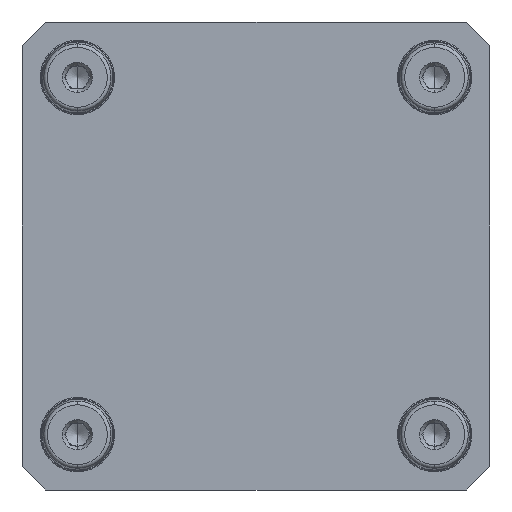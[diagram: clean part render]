
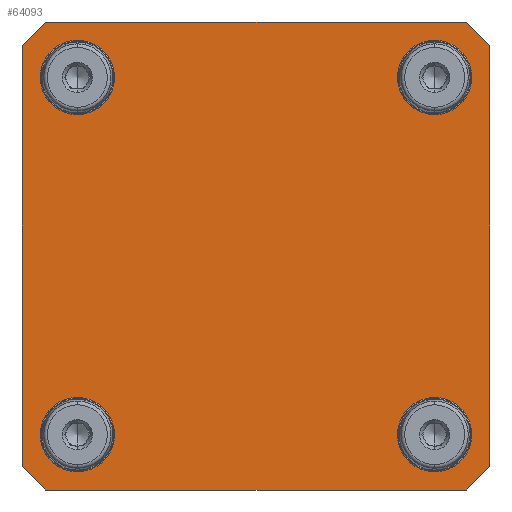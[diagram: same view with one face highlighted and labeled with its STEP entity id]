
A CAD part, front view. The second image highlights one B-rep face of the part: STEP entity #64093.
In plain terms, the highlighted planar face has unit normal (0, -1, 0).
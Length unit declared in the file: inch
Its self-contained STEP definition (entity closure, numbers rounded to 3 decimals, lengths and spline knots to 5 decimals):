
#477 = VERTEX_POINT ( 'NONE', #4337 ) ;
#889 = CARTESIAN_POINT ( 'NONE',  ( -2.225, 0., -2.475 ) ) ;
#1001 = EDGE_LOOP ( 'NONE', ( #98950, #86549 ) ) ;
#1962 = EDGE_LOOP ( 'NONE', ( #91341, #17675 ) ) ;
#2393 = CARTESIAN_POINT ( 'NONE',  ( -2.475, 0., 2.225 ) ) ;
#2726 = VERTEX_POINT ( 'NONE', #18595 ) ;
#2868 = CARTESIAN_POINT ( 'NONE',  ( -1.88976, 0., 2.20511 ) ) ;
#3150 = LINE ( 'NONE', #48556, #38363 ) ;
#4337 = CARTESIAN_POINT ( 'NONE',  ( -2.475, 0., -2.225 ) ) ;
#4861 = VERTEX_POINT ( 'NONE', #77058 ) ;
#6361 = LINE ( 'NONE', #17736, #22054 ) ;
#7712 = CARTESIAN_POINT ( 'NONE',  ( 0., 0., 0. ) ) ;
#8462 = VERTEX_POINT ( 'NONE', #59574 ) ;
#8484 = ORIENTED_EDGE ( 'NONE', *, *, #11106, .T. ) ;
#8759 = LINE ( 'NONE', #39406, #58451 ) ;
#9774 = EDGE_CURVE ( 'NONE', #29738, #20464, #77078, .T. ) ;
#9824 = EDGE_CURVE ( 'NONE', #477, #66586, #101841, .T. ) ;
#10150 = CARTESIAN_POINT ( 'NONE',  ( -2.475, 0., -2.475 ) ) ;
#10501 = DIRECTION ( 'NONE',  ( 0., 0., 1. ) ) ;
#10551 = AXIS2_PLACEMENT_3D ( 'NONE', #48751, #80951, #89313 ) ;
#10581 = ORIENTED_EDGE ( 'NONE', *, *, #88216, .F. ) ;
#11106 = EDGE_CURVE ( 'NONE', #86386, #66586, #8759, .T. ) ;
#12453 = CARTESIAN_POINT ( 'NONE',  ( -2.475, 0., -2.225 ) ) ;
#12910 = CARTESIAN_POINT ( 'NONE',  ( -2.225, 0., 2.475 ) ) ;
#13185 = DIRECTION ( 'NONE',  ( 0.707, 0., -0.707 ) ) ;
#13378 = EDGE_CURVE ( 'NONE', #94059, #18965, #87181, .T. ) ;
#14108 = FACE_OUTER_BOUND ( 'NONE', #96858, .T. ) ;
#14342 = EDGE_CURVE ( 'NONE', #93657, #32014, #26767, .T. ) ;
#15198 = EDGE_CURVE ( 'NONE', #2726, #4861, #3150, .T. ) ;
#15773 = ORIENTED_EDGE ( 'NONE', *, *, #26614, .T. ) ;
#16049 = DIRECTION ( 'NONE',  ( -0.707, 0., -0.707 ) ) ;
#16291 = ORIENTED_EDGE ( 'NONE', *, *, #94848, .F. ) ;
#17170 = DIRECTION ( 'NONE',  ( 0., -1., 0. ) ) ;
#17675 = ORIENTED_EDGE ( 'NONE', *, *, #9774, .F. ) ;
#17736 = CARTESIAN_POINT ( 'NONE',  ( 2.475, 0., -2.475 ) ) ;
#18066 = CARTESIAN_POINT ( 'NONE',  ( -1.88976, 0., 1.88976 ) ) ;
#18595 = CARTESIAN_POINT ( 'NONE',  ( 2.475, 0., 2.225 ) ) ;
#18965 = VERTEX_POINT ( 'NONE', #889 ) ;
#20017 = DIRECTION ( 'NONE',  ( 0., 0., 1. ) ) ;
#20464 = VERTEX_POINT ( 'NONE', #39626 ) ;
#20685 = DIRECTION ( 'NONE',  ( 0., 0., 1. ) ) ;
#21300 = CIRCLE ( 'NONE', #75599, 0.31535 ) ;
#22054 = VECTOR ( 'NONE', #58962, 39.37008 ) ;
#22226 = VERTEX_POINT ( 'NONE', #54936 ) ;
#23291 = AXIS2_PLACEMENT_3D ( 'NONE', #76339, #17170, #68646 ) ;
#23758 = ORIENTED_EDGE ( 'NONE', *, *, #92848, .T. ) ;
#24780 = VECTOR ( 'NONE', #10501, 39.37008 ) ;
#25326 = PLANE ( 'NONE',  #77204 ) ;
#25545 = DIRECTION ( 'NONE',  ( 0., 0., 1. ) ) ;
#26614 = EDGE_CURVE ( 'NONE', #94059, #103241, #86250, .T. ) ;
#26767 = CIRCLE ( 'NONE', #108371, 0.31535 ) ;
#27368 = CIRCLE ( 'NONE', #107503, 0.31535 ) ;
#28714 = ORIENTED_EDGE ( 'NONE', *, *, #9824, .F. ) ;
#29738 = VERTEX_POINT ( 'NONE', #103183 ) ;
#30536 = EDGE_CURVE ( 'NONE', #86386, #4861, #90196, .T. ) ;
#31636 = VECTOR ( 'NONE', #13185, 39.37008 ) ;
#31959 = EDGE_CURVE ( 'NONE', #48353, #8462, #77249, .T. ) ;
#32014 = VERTEX_POINT ( 'NONE', #100681 ) ;
#32713 = CARTESIAN_POINT ( 'NONE',  ( -2.475, 0., 2.475 ) ) ;
#34180 = DIRECTION ( 'NONE',  ( 0., 0., -1. ) ) ;
#34347 = CARTESIAN_POINT ( 'NONE',  ( -2.475, 0., -2.475 ) ) ;
#34928 = VECTOR ( 'NONE', #76700, 39.37008 ) ;
#36322 = FACE_BOUND ( 'NONE', #39223, .T. ) ;
#38363 = VECTOR ( 'NONE', #57653, 39.37008 ) ;
#38924 = FACE_BOUND ( 'NONE', #1001, .T. ) ;
#39223 = EDGE_LOOP ( 'NONE', ( #63156, #40811 ) ) ;
#39406 = CARTESIAN_POINT ( 'NONE',  ( -2.225, 0., 2.475 ) ) ;
#39408 = CARTESIAN_POINT ( 'NONE',  ( 2.225, 0., -2.475 ) ) ;
#39626 = CARTESIAN_POINT ( 'NONE',  ( 1.88976, 0., 1.57441 ) ) ;
#40362 = EDGE_CURVE ( 'NONE', #20464, #29738, #46456, .T. ) ;
#40690 = LINE ( 'NONE', #12453, #31636 ) ;
#40811 = ORIENTED_EDGE ( 'NONE', *, *, #54376, .F. ) ;
#42809 = DIRECTION ( 'NONE',  ( 0., -1., 0. ) ) ;
#43154 = DIRECTION ( 'NONE',  ( 0., 0., -1. ) ) ;
#43598 = CARTESIAN_POINT ( 'NONE',  ( 1.88976, 0., -1.88976 ) ) ;
#44138 = AXIS2_PLACEMENT_3D ( 'NONE', #53861, #88168, #20685 ) ;
#45751 = VERTEX_POINT ( 'NONE', #2868 ) ;
#46267 = AXIS2_PLACEMENT_3D ( 'NONE', #18066, #102719, #59312 ) ;
#46456 = CIRCLE ( 'NONE', #44138, 0.31535 ) ;
#48353 = VERTEX_POINT ( 'NONE', #70634 ) ;
#48556 = CARTESIAN_POINT ( 'NONE',  ( 2.475, 0., 2.225 ) ) ;
#48751 = CARTESIAN_POINT ( 'NONE',  ( 1.88976, 0., -1.88976 ) ) ;
#51815 = AXIS2_PLACEMENT_3D ( 'NONE', #58000, #76637, #25545 ) ;
#53861 = CARTESIAN_POINT ( 'NONE',  ( 1.88976, 0., 1.88976 ) ) ;
#54087 = EDGE_CURVE ( 'NONE', #32014, #93657, #71780, .T. ) ;
#54354 = ORIENTED_EDGE ( 'NONE', *, *, #30536, .F. ) ;
#54376 = EDGE_CURVE ( 'NONE', #45751, #22226, #54810, .T. ) ;
#54810 = CIRCLE ( 'NONE', #46267, 0.31535 ) ;
#54936 = CARTESIAN_POINT ( 'NONE',  ( -1.88976, 0., 1.57441 ) ) ;
#57401 = DIRECTION ( 'NONE',  ( 0., 0., 1. ) ) ;
#57653 = DIRECTION ( 'NONE',  ( -0.707, 0., 0.707 ) ) ;
#58000 = CARTESIAN_POINT ( 'NONE',  ( -1.88976, 0., -1.88976 ) ) ;
#58451 = VECTOR ( 'NONE', #16049, 39.37008 ) ;
#58962 = DIRECTION ( 'NONE',  ( 0., 0., -1. ) ) ;
#59312 = DIRECTION ( 'NONE',  ( 0., 0., -1. ) ) ;
#59574 = CARTESIAN_POINT ( 'NONE',  ( -1.88976, 0., -2.20511 ) ) ;
#61818 = EDGE_CURVE ( 'NONE', #22226, #45751, #21300, .T. ) ;
#63156 = ORIENTED_EDGE ( 'NONE', *, *, #61818, .F. ) ;
#64093 = ADVANCED_FACE ( 'NONE', ( #75549, #105586, #38924, #36322, #14108 ), #25326, .F. ) ;
#66586 = VERTEX_POINT ( 'NONE', #2393 ) ;
#66633 = CARTESIAN_POINT ( 'NONE',  ( 2.225, 0., -2.475 ) ) ;
#68646 = DIRECTION ( 'NONE',  ( 0., 0., 1. ) ) ;
#70036 = ORIENTED_EDGE ( 'NONE', *, *, #31959, .F. ) ;
#70634 = CARTESIAN_POINT ( 'NONE',  ( -1.88976, 0., -1.57441 ) ) ;
#71780 = CIRCLE ( 'NONE', #10551, 0.31535 ) ;
#72888 = DIRECTION ( 'NONE',  ( 1., 0., 0. ) ) ;
#74218 = CARTESIAN_POINT ( 'NONE',  ( 2.475, 0., -2.225 ) ) ;
#74292 = ORIENTED_EDGE ( 'NONE', *, *, #15198, .T. ) ;
#74542 = VECTOR ( 'NONE', #90188, 39.37008 ) ;
#75549 = FACE_BOUND ( 'NONE', #1962, .T. ) ;
#75599 = AXIS2_PLACEMENT_3D ( 'NONE', #84470, #42809, #43154 ) ;
#76339 = CARTESIAN_POINT ( 'NONE',  ( 1.88976, 0., 1.88976 ) ) ;
#76637 = DIRECTION ( 'NONE',  ( 0., -1., 0. ) ) ;
#76700 = DIRECTION ( 'NONE',  ( -1., 0., 0. ) ) ;
#76964 = ORIENTED_EDGE ( 'NONE', *, *, #13378, .F. ) ;
#77058 = CARTESIAN_POINT ( 'NONE',  ( 2.225, 0., 2.475 ) ) ;
#77078 = CIRCLE ( 'NONE', #23291, 0.31535 ) ;
#77204 = AXIS2_PLACEMENT_3D ( 'NONE', #7712, #99027, #57401 ) ;
#77249 = CIRCLE ( 'NONE', #51815, 0.31535 ) ;
#77513 = CARTESIAN_POINT ( 'NONE',  ( 1.88976, 0., -2.20511 ) ) ;
#80951 = DIRECTION ( 'NONE',  ( 0., -1., 0. ) ) ;
#84470 = CARTESIAN_POINT ( 'NONE',  ( -1.88976, 0., 1.88976 ) ) ;
#86250 = LINE ( 'NONE', #39408, #74542 ) ;
#86386 = VERTEX_POINT ( 'NONE', #12910 ) ;
#86549 = ORIENTED_EDGE ( 'NONE', *, *, #54087, .F. ) ;
#87181 = LINE ( 'NONE', #34347, #34928 ) ;
#88168 = DIRECTION ( 'NONE',  ( 0., -1., 0. ) ) ;
#88216 = EDGE_CURVE ( 'NONE', #2726, #103241, #6361, .T. ) ;
#89313 = DIRECTION ( 'NONE',  ( 0., 0., -1. ) ) ;
#90188 = DIRECTION ( 'NONE',  ( 0.707, 0., 0.707 ) ) ;
#90196 = LINE ( 'NONE', #32713, #100639 ) ;
#91341 = ORIENTED_EDGE ( 'NONE', *, *, #40362, .F. ) ;
#92848 = EDGE_CURVE ( 'NONE', #477, #18965, #40690, .T. ) ;
#93657 = VERTEX_POINT ( 'NONE', #77513 ) ;
#94059 = VERTEX_POINT ( 'NONE', #66633 ) ;
#94467 = DIRECTION ( 'NONE',  ( 0., -1., 0. ) ) ;
#94848 = EDGE_CURVE ( 'NONE', #8462, #48353, #27368, .T. ) ;
#95195 = EDGE_LOOP ( 'NONE', ( #16291, #70036 ) ) ;
#96858 = EDGE_LOOP ( 'NONE', ( #28714, #23758, #76964, #15773, #10581, #74292, #54354, #8484 ) ) ;
#98950 = ORIENTED_EDGE ( 'NONE', *, *, #14342, .F. ) ;
#99027 = DIRECTION ( 'NONE',  ( 0., 1., 0. ) ) ;
#100639 = VECTOR ( 'NONE', #72888, 39.37008 ) ;
#100681 = CARTESIAN_POINT ( 'NONE',  ( 1.88976, 0., -1.57441 ) ) ;
#101314 = DIRECTION ( 'NONE',  ( 0., -1., 0. ) ) ;
#101841 = LINE ( 'NONE', #10150, #24780 ) ;
#102719 = DIRECTION ( 'NONE',  ( 0., -1., 0. ) ) ;
#103183 = CARTESIAN_POINT ( 'NONE',  ( 1.88976, 0., 2.20511 ) ) ;
#103241 = VERTEX_POINT ( 'NONE', #74218 ) ;
#103935 = CARTESIAN_POINT ( 'NONE',  ( -1.88976, 0., -1.88976 ) ) ;
#105586 = FACE_BOUND ( 'NONE', #95195, .T. ) ;
#107503 = AXIS2_PLACEMENT_3D ( 'NONE', #103935, #94467, #20017 ) ;
#108371 = AXIS2_PLACEMENT_3D ( 'NONE', #43598, #101314, #34180 ) ;
